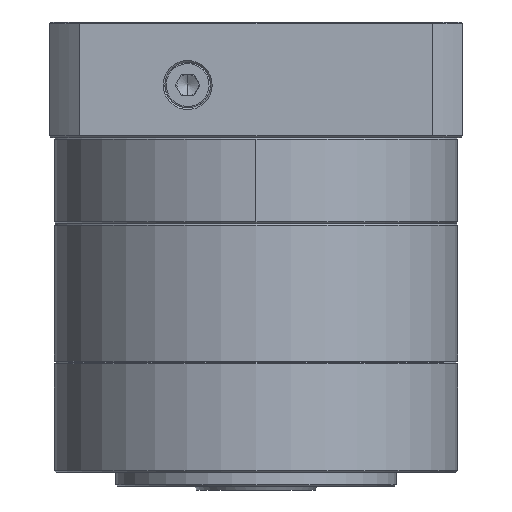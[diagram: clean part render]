
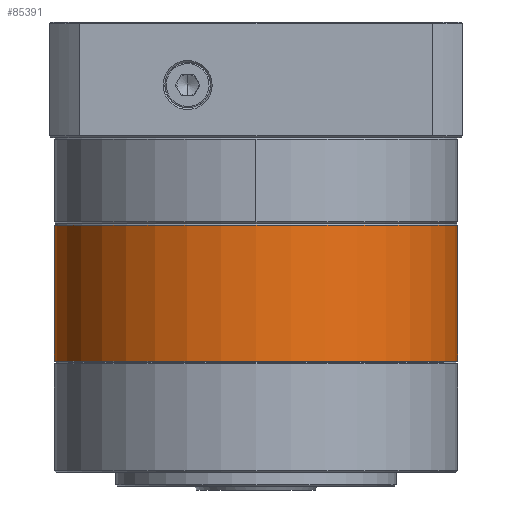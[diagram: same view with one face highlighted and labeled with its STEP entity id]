
A CAD part, front view. The second image highlights one B-rep face of the part: STEP entity #85391.
In plain terms, the highlighted cylindrical face has radius 57.5 mm (diameter 115 mm), a partial arc.
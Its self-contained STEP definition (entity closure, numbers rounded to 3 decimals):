
#3893 = DIRECTION ( 'NONE',  ( 0., 0., -1. ) ) ;
#7442 = AXIS2_PLACEMENT_3D ( 'NONE', #93593, #29292, #104471 ) ;
#7758 = EDGE_CURVE ( 'NONE', #14873, #93434, #101052, .T. ) ;
#10356 = CYLINDRICAL_SURFACE ( 'NONE', #65600, 57.5 ) ;
#14873 = VERTEX_POINT ( 'NONE', #34691 ) ;
#15212 = EDGE_CURVE ( 'NONE', #51232, #93434, #74009, .T. ) ;
#29292 = DIRECTION ( 'NONE',  ( 0., 0., 1. ) ) ;
#34691 = CARTESIAN_POINT ( 'NONE',  ( 4.477, 53.441, -92.011 ) ) ;
#35935 = EDGE_LOOP ( 'NONE', ( #102258, #85527, #137774, #91009 ) ) ;
#47186 = VECTOR ( 'NONE', #50015, 1000. ) ;
#49537 = CARTESIAN_POINT ( 'NONE',  ( 119.477, 53.441, -52.799 ) ) ;
#50015 = DIRECTION ( 'NONE',  ( 0., 0., -1. ) ) ;
#51232 = VERTEX_POINT ( 'NONE', #71543 ) ;
#51409 = DIRECTION ( 'NONE',  ( 0., 0., -1. ) ) ;
#52278 = DIRECTION ( 'NONE',  ( -1., 0., 0. ) ) ;
#53008 = DIRECTION ( 'NONE',  ( 0., 0., 1. ) ) ;
#54876 = CARTESIAN_POINT ( 'NONE',  ( 61.977, 53.441, -92.011 ) ) ;
#62802 = VECTOR ( 'NONE', #3893, 1000. ) ;
#65600 = AXIS2_PLACEMENT_3D ( 'NONE', #128084, #51409, #52278 ) ;
#71543 = CARTESIAN_POINT ( 'NONE',  ( 119.477, 53.441, -53.299 ) ) ;
#74009 = LINE ( 'NONE', #49537, #47186 ) ;
#85391 = ADVANCED_FACE ( 'NONE', ( #116321 ), #10356, .T. ) ;
#85527 = ORIENTED_EDGE ( 'NONE', *, *, #137723, .F. ) ;
#91009 = ORIENTED_EDGE ( 'NONE', *, *, #7758, .T. ) ;
#91486 = LINE ( 'NONE', #121300, #62802 ) ;
#93434 = VERTEX_POINT ( 'NONE', #95154 ) ;
#93593 = CARTESIAN_POINT ( 'NONE',  ( 61.977, 53.441, -53.299 ) ) ;
#95154 = CARTESIAN_POINT ( 'NONE',  ( 119.477, 53.441, -92.011 ) ) ;
#97352 = EDGE_CURVE ( 'NONE', #103443, #14873, #91486, .T. ) ;
#97649 = DIRECTION ( 'NONE',  ( -1., 0., 0. ) ) ;
#101052 = CIRCLE ( 'NONE', #114270, 57.5 ) ;
#102258 = ORIENTED_EDGE ( 'NONE', *, *, #15212, .F. ) ;
#103443 = VERTEX_POINT ( 'NONE', #104673 ) ;
#104471 = DIRECTION ( 'NONE',  ( -1., 0., 0. ) ) ;
#104673 = CARTESIAN_POINT ( 'NONE',  ( 4.477, 53.441, -53.299 ) ) ;
#114270 = AXIS2_PLACEMENT_3D ( 'NONE', #54876, #53008, #97649 ) ;
#116321 = FACE_OUTER_BOUND ( 'NONE', #35935, .T. ) ;
#121300 = CARTESIAN_POINT ( 'NONE',  ( 4.477, 53.441, -52.799 ) ) ;
#128084 = CARTESIAN_POINT ( 'NONE',  ( 61.977, 53.441, -52.799 ) ) ;
#133098 = CIRCLE ( 'NONE', #7442, 57.5 ) ;
#137723 = EDGE_CURVE ( 'NONE', #103443, #51232, #133098, .T. ) ;
#137774 = ORIENTED_EDGE ( 'NONE', *, *, #97352, .T. ) ;
